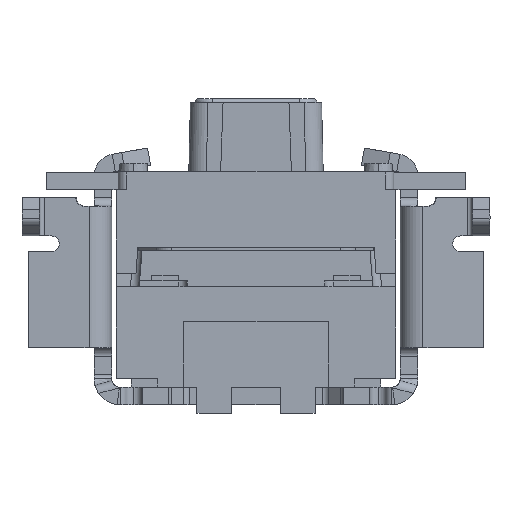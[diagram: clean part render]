
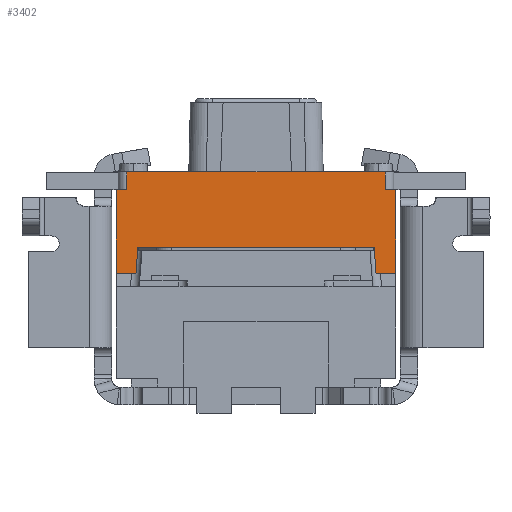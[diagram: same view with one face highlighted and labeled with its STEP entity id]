
A CAD part, top view. The second image highlights one B-rep face of the part: STEP entity #3402.
In plain terms, the highlighted planar face has unit normal (0, 0, 1).
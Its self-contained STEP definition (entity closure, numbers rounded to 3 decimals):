
#490 = CARTESIAN_POINT ( 'NONE',  ( 2.5, 1.31, 0.775 ) ) ;
#498 = PLANE ( 'NONE',  #10178 ) ;
#500 = DIRECTION ( 'NONE',  ( 0., 0., -1. ) ) ;
#501 = DIRECTION ( 'NONE',  ( -1., 0., 0. ) ) ;
#814 = LINE ( 'NONE', #3983, #825 ) ;
#820 = LINE ( 'NONE', #4002, #823 ) ;
#823 = VECTOR ( 'NONE', #4003, 1000. ) ;
#824 = LINE ( 'NONE', #4005, #827 ) ;
#825 = VECTOR ( 'NONE', #4004, 1000. ) ;
#826 = LINE ( 'NONE', #4007, #829 ) ;
#827 = VECTOR ( 'NONE', #4006, 1000. ) ;
#828 = LINE ( 'NONE', #4009, #831 ) ;
#829 = VECTOR ( 'NONE', #4008, 1000. ) ;
#830 = LINE ( 'NONE', #4011, #833 ) ;
#831 = VECTOR ( 'NONE', #4010, 1000. ) ;
#832 = LINE ( 'NONE', #4013, #835 ) ;
#833 = VECTOR ( 'NONE', #4012, 1000. ) ;
#834 = LINE ( 'NONE', #4015, #837 ) ;
#835 = VECTOR ( 'NONE', #4014, 1000. ) ;
#836 = LINE ( 'NONE', #4017, #839 ) ;
#837 = VECTOR ( 'NONE', #4016, 1000. ) ;
#838 = LINE ( 'NONE', #4019, #841 ) ;
#839 = VECTOR ( 'NONE', #4018, 1000. ) ;
#841 = VECTOR ( 'NONE', #4020, 1000. ) ;
#1050 = LINE ( 'NONE', #3070, #1053 ) ;
#1053 = VECTOR ( 'NONE', #3073, 1000. ) ;
#1839 = CARTESIAN_POINT ( 'NONE',  ( 1.6, 0.15, 0.775 ) ) ;
#1936 = CARTESIAN_POINT ( 'NONE',  ( -1.373, 0.15, 0.775 ) ) ;
#1949 = CARTESIAN_POINT ( 'NONE',  ( 1.475, 1.11, 0.775 ) ) ;
#1950 = CARTESIAN_POINT ( 'NONE',  ( -1.475, 1.11, 0.775 ) ) ;
#1952 = CARTESIAN_POINT ( 'NONE',  ( 1.373, 0.15, 0.775 ) ) ;
#1953 = CARTESIAN_POINT ( 'NONE',  ( 1.6, 1.11, 0.775 ) ) ;
#1954 = CARTESIAN_POINT ( 'NONE',  ( -1.6, 0.15, 0.775 ) ) ;
#2880 = CARTESIAN_POINT ( 'NONE',  ( -1.6, 1.11, 0.775 ) ) ;
#2888 = CARTESIAN_POINT ( 'NONE',  ( -1.475, 1.31, 0.775 ) ) ;
#2889 = CARTESIAN_POINT ( 'NONE',  ( 1.475, 1.31, 0.775 ) ) ;
#3070 = CARTESIAN_POINT ( 'NONE',  ( -1.6, 0.45, 0.775 ) ) ;
#3073 = DIRECTION ( 'NONE',  ( 1., 0., 0. ) ) ;
#3190 = CARTESIAN_POINT ( 'NONE',  ( 2.5, 1.31, 0.775 ) ) ;
#3193 = DIRECTION ( 'NONE',  ( 1., 0., 0. ) ) ;
#3402 = ADVANCED_FACE ( 'NONE', ( #11606 ), #498, .F. ) ;
#3983 = CARTESIAN_POINT ( 'NONE',  ( -1.6, 1.11, 0.775 ) ) ;
#4002 = CARTESIAN_POINT ( 'NONE',  ( -1.475, 1.31, 0.775 ) ) ;
#4003 = DIRECTION ( 'NONE',  ( 0., -1., 0. ) ) ;
#4004 = DIRECTION ( 'NONE',  ( 1., 0., 0. ) ) ;
#4005 = CARTESIAN_POINT ( 'NONE',  ( -1.6, 1.11, 0.775 ) ) ;
#4006 = DIRECTION ( 'NONE',  ( 0., -1., 0. ) ) ;
#4007 = CARTESIAN_POINT ( 'NONE',  ( -1.35, 0.15, 0.775 ) ) ;
#4008 = DIRECTION ( 'NONE',  ( -1., 0., 0. ) ) ;
#4009 = CARTESIAN_POINT ( 'NONE',  ( -1.302, 1.088, 0.775 ) ) ;
#4010 = DIRECTION ( 'NONE',  ( 0.075, 0.997, 0. ) ) ;
#4011 = CARTESIAN_POINT ( 'NONE',  ( 1.35, 0.45, 0.775 ) ) ;
#4012 = DIRECTION ( 'NONE',  ( -0.075, 0.997, 0. ) ) ;
#4013 = CARTESIAN_POINT ( 'NONE',  ( 1.35, 0.15, 0.775 ) ) ;
#4014 = DIRECTION ( 'NONE',  ( -1., 0., 0. ) ) ;
#4015 = CARTESIAN_POINT ( 'NONE',  ( 1.6, 1.11, 0.775 ) ) ;
#4016 = DIRECTION ( 'NONE',  ( 0., -1., 0. ) ) ;
#4017 = CARTESIAN_POINT ( 'NONE',  ( -1.6, 1.11, 0.775 ) ) ;
#4018 = DIRECTION ( 'NONE',  ( 1., 0., 0. ) ) ;
#4019 = CARTESIAN_POINT ( 'NONE',  ( 1.475, 1.31, 0.775 ) ) ;
#4020 = DIRECTION ( 'NONE',  ( 0., 1., 0. ) ) ;
#4268 = CARTESIAN_POINT ( 'NONE',  ( 1.35, 0.45, 0.775 ) ) ;
#4270 = CARTESIAN_POINT ( 'NONE',  ( -1.35, 0.45, 0.775 ) ) ;
#7725 = LINE ( 'NONE', #3190, #7727 ) ;
#7727 = VECTOR ( 'NONE', #3193, 1000. ) ;
#8679 = EDGE_LOOP ( 'NONE', ( #10352, #10354, #10355, #10356, #10358, #10360, #10361, #10363, #10364, #10366, #10367, #10368 ) ) ;
#8880 = VERTEX_POINT ( 'NONE', #1839 ) ;
#10178 = AXIS2_PLACEMENT_3D ( 'NONE', #490, #500, #501 ) ;
#10179 = VERTEX_POINT ( 'NONE', #1936 ) ;
#10199 = VERTEX_POINT ( 'NONE', #1949 ) ;
#10200 = VERTEX_POINT ( 'NONE', #1950 ) ;
#10203 = VERTEX_POINT ( 'NONE', #1952 ) ;
#10204 = VERTEX_POINT ( 'NONE', #1953 ) ;
#10206 = VERTEX_POINT ( 'NONE', #1954 ) ;
#10352 = ORIENTED_EDGE ( 'NONE', *, *, #11967, .F. ) ;
#10354 = ORIENTED_EDGE ( 'NONE', *, *, #11144, .T. ) ;
#10355 = ORIENTED_EDGE ( 'NONE', *, *, #11145, .F. ) ;
#10356 = ORIENTED_EDGE ( 'NONE', *, *, #11146, .T. ) ;
#10358 = ORIENTED_EDGE ( 'NONE', *, *, #11147, .F. ) ;
#10360 = ORIENTED_EDGE ( 'NONE', *, *, #11148, .T. ) ;
#10361 = ORIENTED_EDGE ( 'NONE', *, *, #11939, .T. ) ;
#10363 = ORIENTED_EDGE ( 'NONE', *, *, #11149, .F. ) ;
#10364 = ORIENTED_EDGE ( 'NONE', *, *, #11150, .F. ) ;
#10366 = ORIENTED_EDGE ( 'NONE', *, *, #11151, .F. ) ;
#10367 = ORIENTED_EDGE ( 'NONE', *, *, #11152, .F. ) ;
#10368 = ORIENTED_EDGE ( 'NONE', *, *, #11153, .T. ) ;
#11144 = EDGE_CURVE ( 'NONE', #11816, #10200, #820, .T. ) ;
#11145 = EDGE_CURVE ( 'NONE', #11810, #10200, #814, .T. ) ;
#11146 = EDGE_CURVE ( 'NONE', #11810, #10206, #824, .T. ) ;
#11147 = EDGE_CURVE ( 'NONE', #10179, #10206, #826, .T. ) ;
#11148 = EDGE_CURVE ( 'NONE', #10179, #11367, #828, .T. ) ;
#11149 = EDGE_CURVE ( 'NONE', #10203, #11365, #830, .T. ) ;
#11150 = EDGE_CURVE ( 'NONE', #8880, #10203, #832, .T. ) ;
#11151 = EDGE_CURVE ( 'NONE', #10204, #8880, #834, .T. ) ;
#11152 = EDGE_CURVE ( 'NONE', #10199, #10204, #836, .T. ) ;
#11153 = EDGE_CURVE ( 'NONE', #10199, #11817, #838, .T. ) ;
#11365 = VERTEX_POINT ( 'NONE', #4268 ) ;
#11367 = VERTEX_POINT ( 'NONE', #4270 ) ;
#11606 = FACE_OUTER_BOUND ( 'NONE', #8679, .T. ) ;
#11810 = VERTEX_POINT ( 'NONE', #2880 ) ;
#11816 = VERTEX_POINT ( 'NONE', #2888 ) ;
#11817 = VERTEX_POINT ( 'NONE', #2889 ) ;
#11939 = EDGE_CURVE ( 'NONE', #11367, #11365, #1050, .T. ) ;
#11967 = EDGE_CURVE ( 'NONE', #11816, #11817, #7725, .T. ) ;
